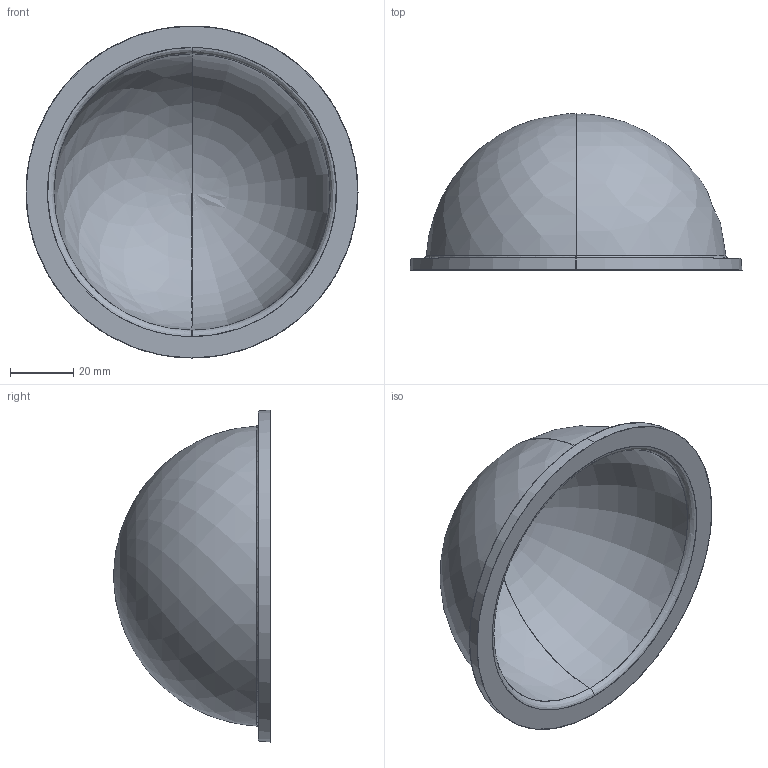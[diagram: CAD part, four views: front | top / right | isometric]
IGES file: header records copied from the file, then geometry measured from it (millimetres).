
Start section: SolidWorks IGES file using analytic representation for surfaces
Global section: file name: C:\Users\Achilles\Dropbox\BR-Engineering\PROJECTS\WTE4\MODELS\DEVELOPMENT\WTE4-P-DOME-R4\WTE4-P-DOME-R4.IGS; native system: SolidWorks 2016; preprocessor: SolidWorks 2016; author: Achilles; date: 181016.154607; units: millimetre
Bounding box: 104.66 x 49.3 x 104.66 mm (x, y, z)
Surface area: 31035.6 mm2 (no closed solid volume)
Topology: 0 solids, 0 shells, 12 faces, 296 edges, 294 vertices
Faces by surface type: bspline 6, revolution 6
